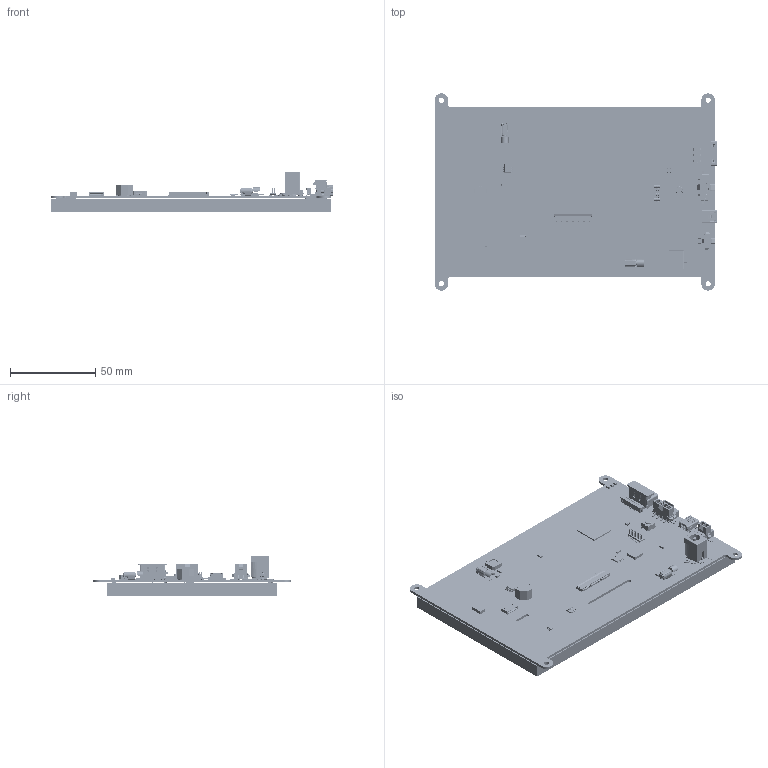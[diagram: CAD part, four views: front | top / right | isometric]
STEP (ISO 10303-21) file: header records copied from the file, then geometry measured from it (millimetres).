
FILE_DESCRIPTION (( 'STEP AP214' ), '1' );
FILE_NAME ('HTT70A-TPC R3.0.2.STEP', '2021-04-06T19:32:23', ( '' ), ( '' ), 'SwSTEP 2.0', 'SolidWorks 2018', '' );
FILE_SCHEMA (( 'AUTOMOTIVE_DESIGN' ));
Length unit declared in the file: millimetre
Products named in the file (4): HTT70A-TPC R3.0.2; MOP-TFT800480-70A-TPC; HTT70_Vert_R3.0.2; HTT70A Vert Parts R3.0.2
Assembly tree (3 placements, depth 2):
  HTT70A-TPC R3.0.2
    HTT70_Vert_R3.0.2
    HTT70A Vert Parts R3.0.2
    MOP-TFT800480-70A-TPC
Bounding box: 166.38 x 116 x 23.66 mm (x, y, z)
Volume: 149301.8 mm3; surface area: 85650.7 mm2
Topology: 2 solids, 192 shells, 13870 faces, 38586 edges, 24969 vertices
Faces by surface type: plane 9725, cylinder 2654, bspline 1413, cone 38, sphere 30, torus 10
Entity records: 608882 total; most frequent: CARTESIAN_POINT 107457, ORIENTED_EDGE 77130, DIRECTION 65012, EDGE_CURVE 38566, VECTOR 29436, LINE 29436, VERTEX_POINT 24961, AXIS2_PLACEMENT_3D 17788
